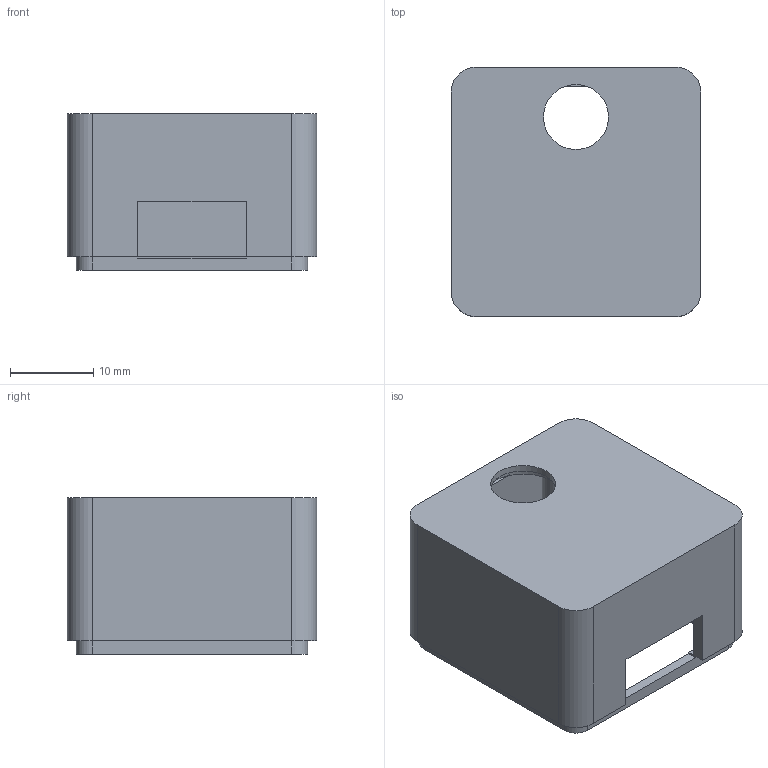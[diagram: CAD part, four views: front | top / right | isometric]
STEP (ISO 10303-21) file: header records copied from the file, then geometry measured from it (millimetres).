
FILE_DESCRIPTION(('FreeCAD Model'),'2;1');
FILE_NAME('Open CASCADE Shape Model','2026-09-05T19:19:36',('FreeCAD'),( 'FreeCAD'),'Open CASCADE STEP processor 7.8','FreeCAD','Unknown');
FILE_SCHEMA(('AUTOMOTIVE_DESIGN { 1 0 10303 214 1 1 1 1 }'));
Length unit declared in the file: millimetre
Products named in the file (1): Open CASCADE STEP translator 7.8 2
Bounding box: 30 x 30 x 18.8 mm (x, y, z)
Volume: 4621.1 mm3; surface area: 5875.1 mm2
Topology: 1 solids, 1 shells, 86 faces, 256 edges, 172 vertices
Faces by surface type: plane 60, cylinder 26
Full cylindrical faces by diameter (mm): 1.7 x2, 7.8 x1, 9.9 x1
Entity records: 2914 total; most frequent: CARTESIAN_POINT 515, ORIENTED_EDGE 512, DIRECTION 494, EDGE_CURVE 256, LINE 192, VECTOR 192, VERTEX_POINT 172, AXIS2_PLACEMENT_3D 151
